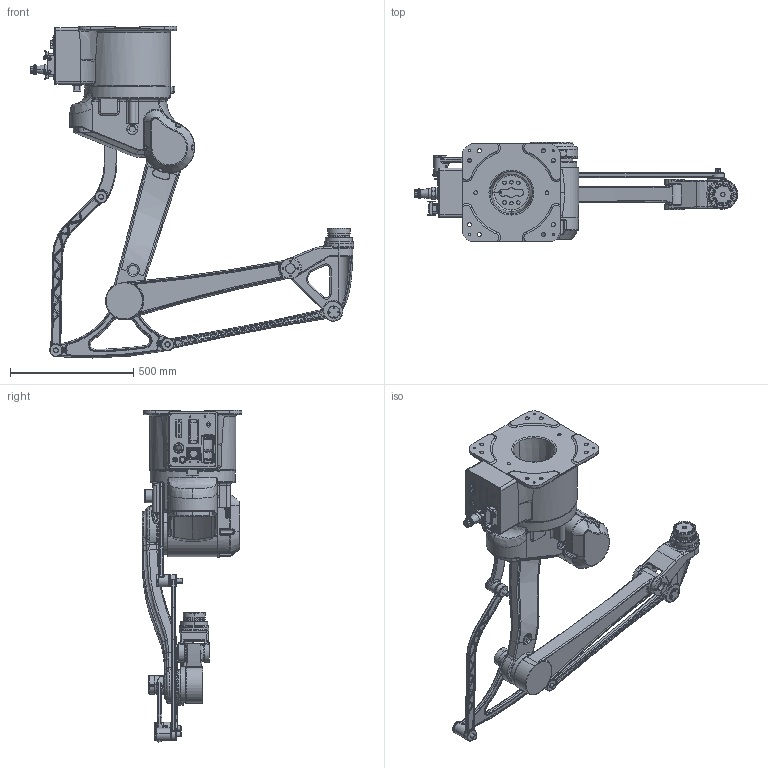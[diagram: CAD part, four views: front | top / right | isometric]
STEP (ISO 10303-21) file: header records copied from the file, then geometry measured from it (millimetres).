
FILE_DESCRIPTION((''),'2;1');
FILE_NAME('LB1500_ASM','2022-11-11T19:53:58',('EBDGC-08'),(''),'CREO PARAMETRIC BY PTC INC, 2021063','CREO PARAMETRIC BY PTC INC, 2021063','');
FILE_SCHEMA(('AUTOMOTIVE_DESIGN { 1 0 10303 214 1 1 1 1 }'));
Length unit declared in the file: inch
Products named in the file (12): 1; 2; 3; 4; 7; 5; 11; 12; 10; 8; 6; LB1500_ASM
Assembly tree (12 placements, depth 2):
  LB1500_ASM
    1
    2
    3
    4
    7
    5
    11  x2
    12
    10
    8
    6
Bounding box: 1313.29 x 406 x 1348.23 mm (x, y, z)
Surface area: 3749584.5 mm2 (no closed solid volume)
Topology: 0 solids, 144 shells, 2381 faces, 9064 edges, 6580 vertices
Faces by surface type: cylinder 792, torus 575, plane 505, bspline 319, cone 153, extrusion 14, sphere 13, revolution 10
Entity records: 136086 total; most frequent: CARTESIAN_POINT 53404, DIRECTION 15055, ORIENTED_EDGE 13439, EDGE_CURVE 8924, VERTEX_POINT 6504, AXIS2_PLACEMENT_3D 6333, CIRCLE 4201, EDGE_LOOP 2777
